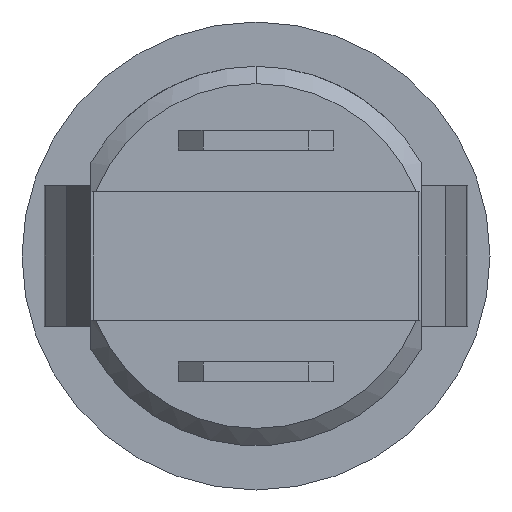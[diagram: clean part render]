
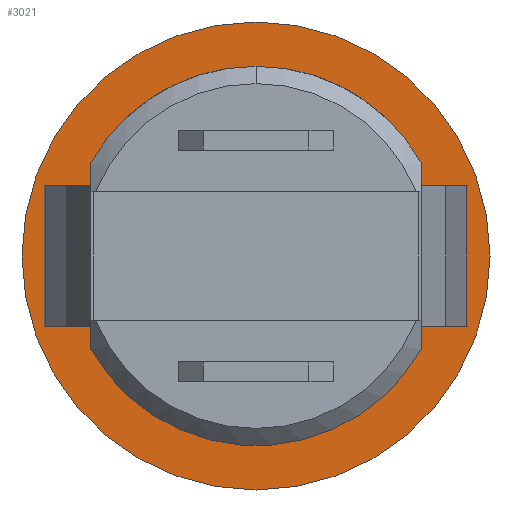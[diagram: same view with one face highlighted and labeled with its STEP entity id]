
A CAD part, front view. The second image highlights one B-rep face of the part: STEP entity #3021.
In plain terms, the highlighted planar face has unit normal (0, -1, 0).
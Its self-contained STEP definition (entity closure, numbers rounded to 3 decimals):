
#52 = DIRECTION ( 'NONE',  ( -1., 0., 0. ) ) ;
#54 = VERTEX_POINT ( 'NONE', #2480 ) ;
#169 = FACE_BOUND ( 'NONE', #2482, .T. ) ;
#181 = CARTESIAN_POINT ( 'NONE',  ( 0., 0., 9.5 ) ) ;
#186 = DIRECTION ( 'NONE',  ( 0., 0., 1. ) ) ;
#192 = ORIENTED_EDGE ( 'NONE', *, *, #3134, .T. ) ;
#246 = EDGE_CURVE ( 'NONE', #54, #2931, #1340, .T. ) ;
#278 = ORIENTED_EDGE ( 'NONE', *, *, #1034, .T. ) ;
#329 = ORIENTED_EDGE ( 'NONE', *, *, #1790, .T. ) ;
#395 = VECTOR ( 'NONE', #52, 1000. ) ;
#408 = EDGE_CURVE ( 'NONE', #2433, #1904, #2273, .T. ) ;
#445 = LINE ( 'NONE', #3020, #1552 ) ;
#476 = AXIS2_PLACEMENT_3D ( 'NONE', #3025, #2697, #186 ) ;
#532 = ORIENTED_EDGE ( 'NONE', *, *, #736, .T. ) ;
#608 = CARTESIAN_POINT ( 'NONE',  ( 8., 0., 2.85 ) ) ;
#610 = VECTOR ( 'NONE', #1483, 1000. ) ;
#647 = DIRECTION ( 'NONE',  ( 0., 0., -1. ) ) ;
#660 = LINE ( 'NONE', #1924, #2501 ) ;
#662 = LINE ( 'NONE', #1911, #1487 ) ;
#665 = ORIENTED_EDGE ( 'NONE', *, *, #246, .F. ) ;
#666 = DIRECTION ( 'NONE',  ( 0., 0., -1. ) ) ;
#667 = VERTEX_POINT ( 'NONE', #2069 ) ;
#697 = VECTOR ( 'NONE', #1242, 1000. ) ;
#736 = EDGE_CURVE ( 'NONE', #667, #1238, #660, .T. ) ;
#925 = CARTESIAN_POINT ( 'NONE',  ( 0., 0., 0. ) ) ;
#932 = EDGE_CURVE ( 'NONE', #1904, #1638, #662, .T. ) ;
#959 = CARTESIAN_POINT ( 'NONE',  ( 6.25, 0., 2.85 ) ) ;
#962 = FACE_BOUND ( 'NONE', #3127, .T. ) ;
#993 = DIRECTION ( 'NONE',  ( 0., 0., -1. ) ) ;
#1034 = EDGE_CURVE ( 'NONE', #2266, #2354, #1878, .T. ) ;
#1199 = DIRECTION ( 'NONE',  ( -1., 0., 0. ) ) ;
#1238 = VERTEX_POINT ( 'NONE', #2565 ) ;
#1242 = DIRECTION ( 'NONE',  ( 0., 0., -1. ) ) ;
#1340 = LINE ( 'NONE', #2373, #395 ) ;
#1359 = ORIENTED_EDGE ( 'NONE', *, *, #1882, .F. ) ;
#1415 = DIRECTION ( 'NONE',  ( 0., 0., -1. ) ) ;
#1421 = DIRECTION ( 'NONE',  ( 0., -1., 0. ) ) ;
#1483 = DIRECTION ( 'NONE',  ( 1., 0., 0. ) ) ;
#1487 = VECTOR ( 'NONE', #1415, 1000. ) ;
#1552 = VECTOR ( 'NONE', #993, 1000. ) ;
#1556 = AXIS2_PLACEMENT_3D ( 'NONE', #1755, #2813, #1769 ) ;
#1638 = VERTEX_POINT ( 'NONE', #2920 ) ;
#1670 = FACE_OUTER_BOUND ( 'NONE', #2722, .T. ) ;
#1704 = CARTESIAN_POINT ( 'NONE',  ( -8., 0., 2.85 ) ) ;
#1706 = DIRECTION ( 'NONE',  ( 1., 0., 0. ) ) ;
#1714 = CIRCLE ( 'NONE', #2135, 9.5 ) ;
#1755 = CARTESIAN_POINT ( 'NONE',  ( 0., 0., 0. ) ) ;
#1769 = DIRECTION ( 'NONE',  ( 0., 0., -1. ) ) ;
#1784 = VECTOR ( 'NONE', #1706, 1000. ) ;
#1790 = EDGE_CURVE ( 'NONE', #2354, #2266, #1714, .T. ) ;
#1793 = VERTEX_POINT ( 'NONE', #2472 ) ;
#1845 = ORIENTED_EDGE ( 'NONE', *, *, #2977, .F. ) ;
#1878 = CIRCLE ( 'NONE', #1556, 9.5 ) ;
#1882 = EDGE_CURVE ( 'NONE', #2433, #1793, #3266, .T. ) ;
#1904 = VERTEX_POINT ( 'NONE', #608 ) ;
#1911 = CARTESIAN_POINT ( 'NONE',  ( 8., 0., 2.85 ) ) ;
#1924 = CARTESIAN_POINT ( 'NONE',  ( -6.25, 0., -2.85 ) ) ;
#1940 = CARTESIAN_POINT ( 'NONE',  ( 6.25, 0., -2.85 ) ) ;
#1944 = EDGE_CURVE ( 'NONE', #2931, #1238, #445, .T. ) ;
#1989 = CARTESIAN_POINT ( 'NONE',  ( 0., 0., -9.5 ) ) ;
#2039 = ORIENTED_EDGE ( 'NONE', *, *, #932, .T. ) ;
#2069 = CARTESIAN_POINT ( 'NONE',  ( -6.25, 0., -2.85 ) ) ;
#2135 = AXIS2_PLACEMENT_3D ( 'NONE', #925, #1421, #666 ) ;
#2226 = CARTESIAN_POINT ( 'NONE',  ( 6.25, 0., 2.85 ) ) ;
#2227 = LINE ( 'NONE', #1940, #1784 ) ;
#2266 = VERTEX_POINT ( 'NONE', #1989 ) ;
#2273 = LINE ( 'NONE', #2226, #610 ) ;
#2331 = CARTESIAN_POINT ( 'NONE',  ( -6.25, 0., 2.85 ) ) ;
#2354 = VERTEX_POINT ( 'NONE', #181 ) ;
#2373 = CARTESIAN_POINT ( 'NONE',  ( -6.25, 0., 2.85 ) ) ;
#2387 = ORIENTED_EDGE ( 'NONE', *, *, #1944, .F. ) ;
#2433 = VERTEX_POINT ( 'NONE', #2799 ) ;
#2472 = CARTESIAN_POINT ( 'NONE',  ( 6.25, 0., -2.85 ) ) ;
#2477 = PLANE ( 'NONE',  #476 ) ;
#2480 = CARTESIAN_POINT ( 'NONE',  ( -6.25, 0., 2.85 ) ) ;
#2482 = EDGE_LOOP ( 'NONE', ( #3156, #2039, #1845, #1359 ) ) ;
#2501 = VECTOR ( 'NONE', #1199, 1000. ) ;
#2565 = CARTESIAN_POINT ( 'NONE',  ( -8., 0., -2.85 ) ) ;
#2697 = DIRECTION ( 'NONE',  ( 0., 1., 0. ) ) ;
#2722 = EDGE_LOOP ( 'NONE', ( #278, #329 ) ) ;
#2789 = LINE ( 'NONE', #2331, #697 ) ;
#2799 = CARTESIAN_POINT ( 'NONE',  ( 6.25, 0., 2.85 ) ) ;
#2813 = DIRECTION ( 'NONE',  ( 0., -1., 0. ) ) ;
#2920 = CARTESIAN_POINT ( 'NONE',  ( 8., 0., -2.85 ) ) ;
#2931 = VERTEX_POINT ( 'NONE', #1704 ) ;
#2977 = EDGE_CURVE ( 'NONE', #1793, #1638, #2227, .T. ) ;
#3020 = CARTESIAN_POINT ( 'NONE',  ( -8., 0., 2.85 ) ) ;
#3021 = ADVANCED_FACE ( 'NONE', ( #1670, #962, #169 ), #2477, .F. ) ;
#3025 = CARTESIAN_POINT ( 'NONE',  ( 0., 0., 0. ) ) ;
#3127 = EDGE_LOOP ( 'NONE', ( #2387, #665, #192, #532 ) ) ;
#3134 = EDGE_CURVE ( 'NONE', #54, #667, #2789, .T. ) ;
#3156 = ORIENTED_EDGE ( 'NONE', *, *, #408, .T. ) ;
#3207 = VECTOR ( 'NONE', #647, 1000. ) ;
#3266 = LINE ( 'NONE', #959, #3207 ) ;
